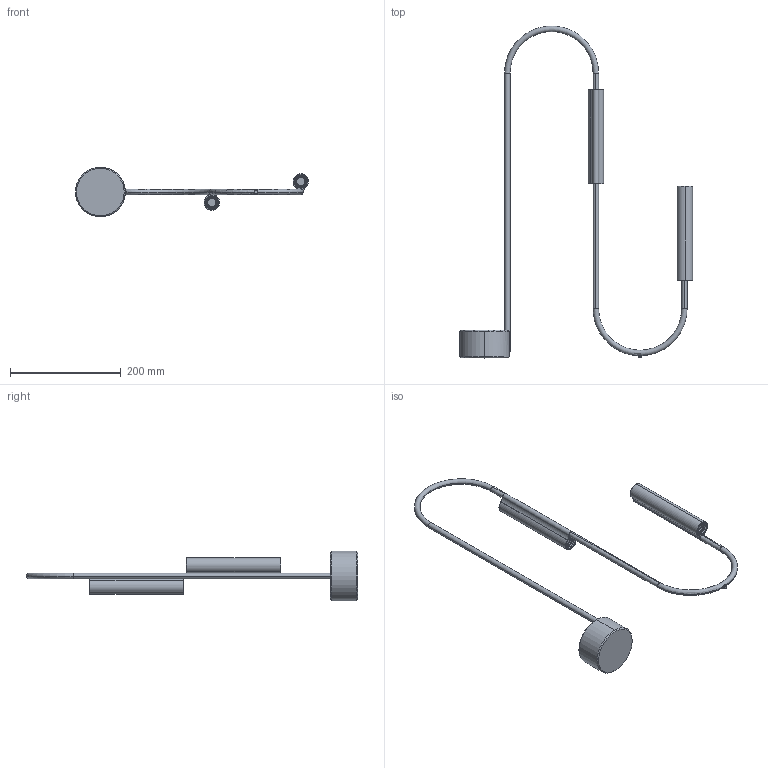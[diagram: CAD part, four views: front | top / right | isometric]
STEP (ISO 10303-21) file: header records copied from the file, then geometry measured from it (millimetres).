
FILE_DESCRIPTION (( 'STEP AP214' ), '1' );
FILE_NAME ('Pop - Table Lamp.STEP', '2024-04-08T05:55:42', ( '' ), ( '' ), 'SwSTEP 2.0', 'SolidWorks 2017', '' );
FILE_SCHEMA (( 'AUTOMOTIVE_DESIGN' ));
Length unit declared in the file: millimetre
Products named in the file (1): Pop - Table Lamp
Bounding box: 421.19 x 600 x 90 mm (x, y, z)
Volume: 579992.4 mm3; surface area: 191076.6 mm2
Topology: 12 solids, 12 shells, 406 faces, 1037 edges, 666 vertices
Faces by surface type: cylinder 195, plane 119, torus 54, cone 29, bspline 9
Entity records: 18943 total; most frequent: CARTESIAN_POINT 4247, DIRECTION 2178, ORIENTED_EDGE 2070, EDGE_CURVE 1035, AXIS2_PLACEMENT_3D 937, VERTEX_POINT 666, CIRCLE 539, EDGE_LOOP 507
